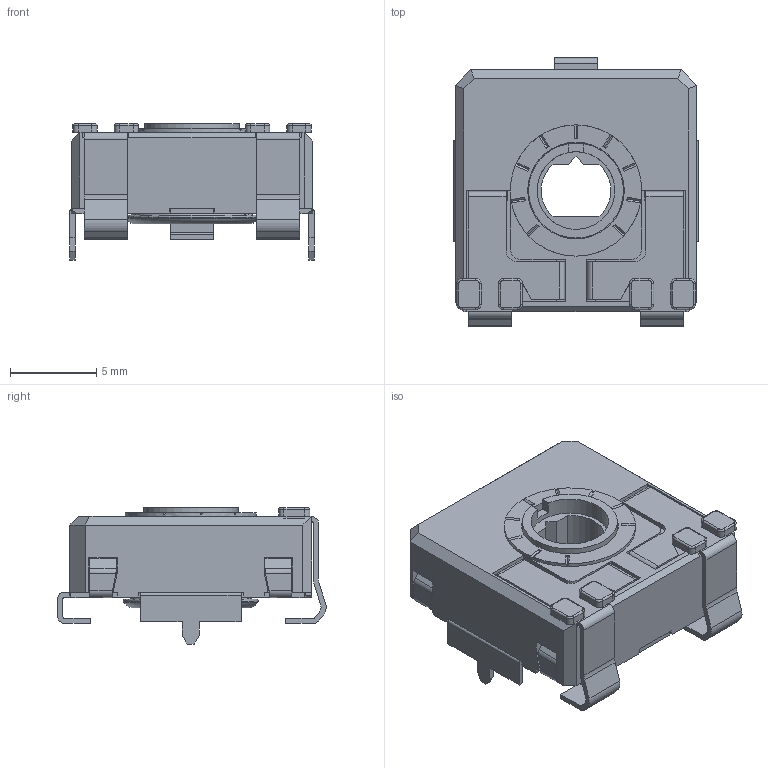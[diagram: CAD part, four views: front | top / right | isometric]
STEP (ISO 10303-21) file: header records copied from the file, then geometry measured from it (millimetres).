
FILE_DESCRIPTION(/* description */ (''),/* implementation_level */ '2;1');
FILE_NAME(/* name */ 'COMCA14KVSMD CY.stp',/* time_stamp */ '2026-04-01T17:01:02+02:00',/* author */ ('CEM'),/* organization */ (''),/* preprocessor_version */ 'ST-DEVELOPER v20.1',/* originating_system */ 'Autodesk Inventor 2026',/* authorisation */ '');
FILE_SCHEMA (('AUTOMOTIVE_DESIGN { 1 0 10303 214 3 1 1 }'));
Length unit declared in the file: millimetre
Products named in the file (1): CARCASA CA14 PGA
Bounding box: 14.15 x 15.55 x 7.9 mm (x, y, z)
Volume: 544.2 mm3; surface area: 1518 mm2
Topology: 1 solids, 1 shells, 574 faces, 1626 edges, 1039 vertices
Faces by surface type: plane 428, cylinder 109, torus 23, bspline 8, cone 6
Full cylindrical faces by diameter (mm): 4.5 x1, 5.5 x1, 5.6 x1, 5.752 x1, 6.8 x1, 7.6 x1
Entity records: 18849 total; most frequent: CARTESIAN_POINT 3537, ORIENTED_EDGE 3252, DIRECTION 3012, EDGE_CURVE 1626, LINE 1284, VECTOR 1284, VERTEX_POINT 1039, AXIS2_PLACEMENT_3D 864
